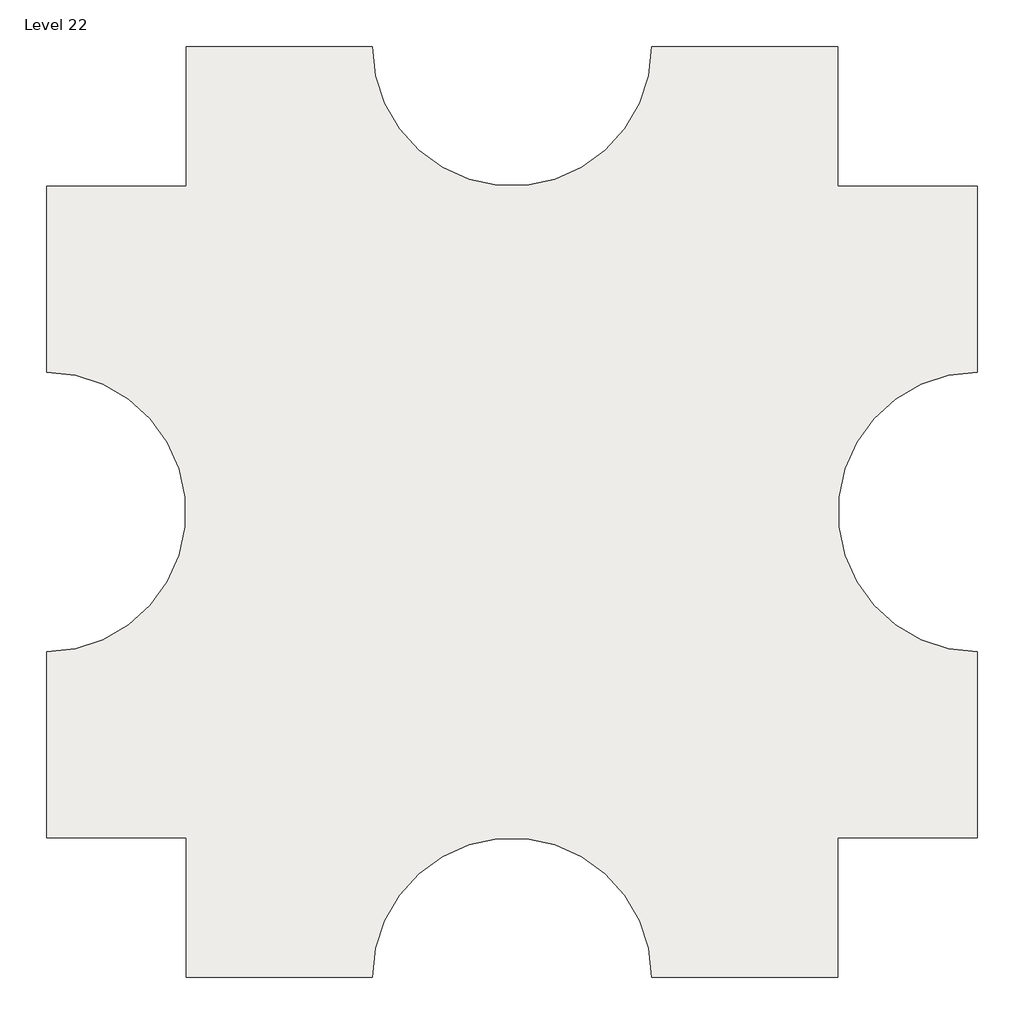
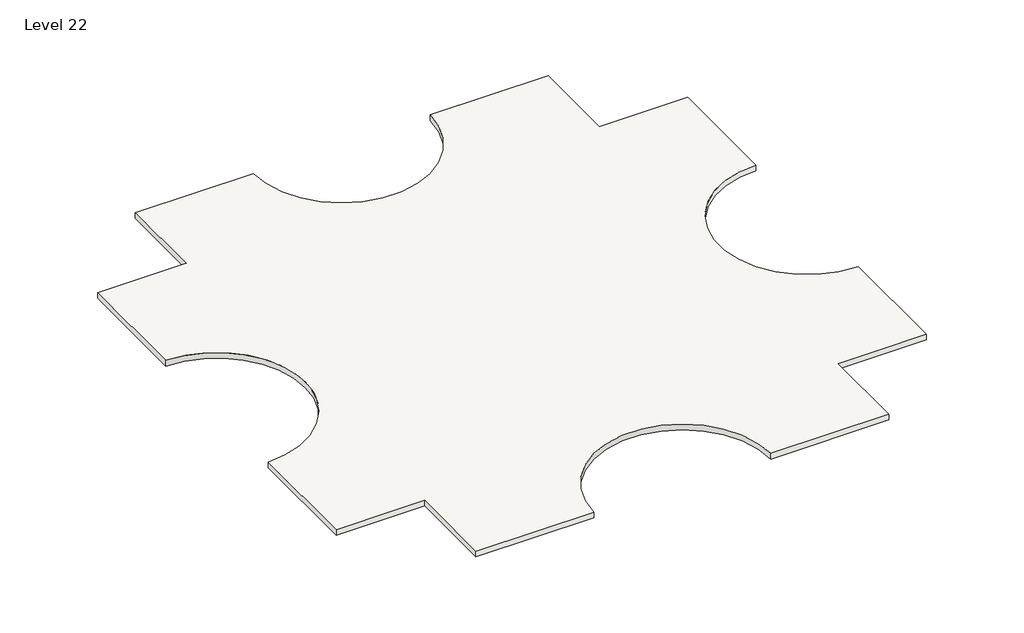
# One storey: 1 slab.
"""IFC4 building model written with IfcOpenShell, lengths in millimetres."""

import ifcopenshell
import ifcopenshell.guid

model = None  # the IFC model being written
_history = None  # IfcOwnerHistory: only IFC2X3 demands one
_inside = {}  # id of a spatial element -> (the spatial element, [elements in it])
_under = {}  # id of a project, library or spatial element -> (it, [spatial elements below it])
_declared = {}  # id of a project -> (the project, [libraries it declares])
_typed = {}  # id of a type object -> (the type object, [elements of that type])
_made_of = {}  # id of a material, layer set ... -> (it, [elements and type objects made of it])


def new_model(schema):
    """Start an empty IFC model of exactly this schema.

    Asked for "IFC4X3", IfcOpenShell would pick the latest addendum, in which some entities
    have other attributes; the version numbers below select the first issue.
    IFC2X3 requires an IfcOwnerHistory on every rooted entity: one is made here for all.
    """
    global model, _history
    if schema == "IFC4X3":
        model = ifcopenshell.file(schema_version=(4, 3, 0, 0))
    else:
        model = ifcopenshell.file(schema=schema)
    _inside.clear()
    _under.clear()
    _declared.clear()
    _typed.clear()
    _made_of.clear()
    _history = None
    if model.schema == "IFC2X3":
        org = make("IfcOrganization", Name="unknown")
        user = make(
            "IfcPersonAndOrganization",
            ThePerson=make("IfcPerson", FamilyName="unknown"),
            TheOrganization=org,
        )
        app = make(
            "IfcApplication",
            ApplicationDeveloper=org,
            Version="unknown",
            ApplicationFullName="unknown",
            ApplicationIdentifier="unknown",
        )
        _history = make(
            "IfcOwnerHistory",
            OwningUser=user,
            OwningApplication=app,
            ChangeAction="ADDED",
            CreationDate=0,
        )
    return model


def make(cls, **values):
    """One entity of the class cls with the attributes given. An attribute that is None is left unset."""
    return model.create_entity(
        cls, **{name: value for name, value in values.items() if value is not None}
    )


def rooted(cls, **values):
    """An entity with a GlobalId (a new one), such as an element, a storey or a relation."""
    return make(cls, GlobalId=ifcopenshell.guid.new(), OwnerHistory=_history, **values)


def si_unit(unit_type, name, prefix=None):
    """IfcSIUnit, for example si_unit("LENGTHUNIT", "METRE", prefix="MILLI")."""
    return make("IfcSIUnit", UnitType=unit_type, Prefix=prefix, Name=name)


def assignment(units):
    """IfcUnitAssignment: the units of a project."""
    return None if units is None else make("IfcUnitAssignment", Units=units)


def point(xyz):
    """IfcCartesianPoint."""
    return None if xyz is None else make("IfcCartesianPoint", Coordinates=xyz)


def direction(xyz):
    """IfcDirection."""
    return None if xyz is None else make("IfcDirection", DirectionRatios=xyz)


def frame(location, z_axis=None, x_axis=None):
    """IfcAxis2Placement3D, a coordinate frame: its origin and axes. An axis left out is left unset."""
    return make(
        "IfcAxis2Placement3D",
        Location=point(location),
        Axis=direction(z_axis),
        RefDirection=direction(x_axis),
    )


def frame_2d(location, x_axis=None):
    """IfcAxis2Placement2D, a coordinate frame in the plane: its origin and x axis."""
    return make(
        "IfcAxis2Placement2D", Location=point(location), RefDirection=direction(x_axis)
    )


def origin():
    """The frame at (0, 0, 0) with its axes left unset."""
    return frame((0.0, 0.0, 0.0))


def place(relative_to, where):
    """IfcLocalPlacement: puts the frame where relative to a parent placement (None: the world)."""
    return make(
        "IfcLocalPlacement", PlacementRelTo=relative_to, RelativePlacement=where
    )


def context(
    kind, dimensions, precision=None, world=None, true_north=None, identifier=None
):
    """IfcGeometricRepresentationContext, for example the 3D "Model" context."""
    return make(
        "IfcGeometricRepresentationContext",
        ContextIdentifier=identifier,
        ContextType=kind,
        CoordinateSpaceDimension=dimensions,
        Precision=precision,
        WorldCoordinateSystem=world,
        TrueNorth=true_north,
    )


def project(units=None, contexts=None):
    """IfcProject with its units and contexts."""
    return rooted(
        "IfcProject",
        Name="project",
        RepresentationContexts=contexts,
        UnitsInContext=assignment(units),
    )


def spatial(cls, under=None, at=None, **own):
    """A site, building, storey or space (cls), placed at a placement, below another one or the project."""
    s = rooted(cls, ObjectPlacement=at, **own)
    if under is not None:
        _under.setdefault(under.id(), (under, []))[1].append(s)
    return s


def polyline(points):
    """IfcPolyline through the points."""
    return make("IfcPolyline", Points=[point(p) for p in points])


def circle_curve(where, radius):
    """IfcCircle in the frame where."""
    return make("IfcCircle", Position=where, Radius=radius)


def trimmed(basis, trim1, trim2, sense, master):
    """IfcTrimmedCurve: the piece of a basis curve between two trims."""
    return make(
        "IfcTrimmedCurve",
        BasisCurve=basis,
        Trim1=trim1,
        Trim2=trim2,
        SenseAgreement=sense,
        MasterRepresentation=master,
    )


def segment(curve, same_sense, transition):
    """IfcCompositeCurveSegment."""
    return make(
        "IfcCompositeCurveSegment",
        Transition=transition,
        SameSense=same_sense,
        ParentCurve=curve,
    )


def composite_curve(segments, self_intersect=None):
    """IfcCompositeCurve: segments joined end to end."""
    return make("IfcCompositeCurve", Segments=segments, SelfIntersect=self_intersect)


def outline(outer, holes=None, kind="AREA"):
    """IfcArbitraryClosedProfileDef: a profile drawn as a closed curve; with holes, ...WithVoids."""
    if holes is None:
        return make("IfcArbitraryClosedProfileDef", ProfileType=kind, OuterCurve=outer)
    return make(
        "IfcArbitraryProfileDefWithVoids",
        ProfileType=kind,
        OuterCurve=outer,
        InnerCurves=holes,
    )


def extrude(swept, where, along, depth):
    """IfcExtrudedAreaSolid: the profile swept, set in the frame where, extruded along a direction by depth."""
    return make(
        "IfcExtrudedAreaSolid",
        SweptArea=swept,
        Position=where,
        ExtrudedDirection=direction(along),
        Depth=depth,
    )


def shape(context_of_items, identifier, shape_type, items):
    """IfcShapeRepresentation: the items that make up one representation, for example the "Body"."""
    return make(
        "IfcShapeRepresentation",
        ContextOfItems=context_of_items,
        RepresentationIdentifier=identifier,
        RepresentationType=shape_type,
        Items=items,
    )


def made_of(thing, what):
    """Note that an element or type object is made of a material, layer set ...; save() writes the relation."""
    if what is not None:
        _made_of.setdefault(what.id(), (what, []))[1].append(thing)
    return thing


def element(
    cls,
    number,
    at=None,
    inside=None,
    cuts=None,
    type_object=None,
    material=None,
    context=None,
    identifier="Body",
    shape_type=None,
    held_by="IfcProductDefinitionShape",
    body=None,
    shapes=None,
    **own,
):
    """One element of the class cls, such as IfcWall. Its Tag is "e" and its number.

    at: its placement. inside: the storey or other place that contains it. cuts: it is an
    opening in that element (IfcRelVoidsElement). A single representation is given by context,
    identifier, shape_type and body (its items); several are given by shapes. held_by: the class
    of the entity that holds the representations. save() writes the other relations.
    """
    e = rooted(cls, Tag="e%d" % number, ObjectPlacement=at, **own)
    if body is not None:
        shapes = [shape(context, identifier, shape_type, body)]
    if shapes is not None:
        e.Representation = make(held_by, Representations=shapes)
    if inside is not None:
        _inside.setdefault(inside.id(), (inside, []))[1].append(e)
    if cuts is not None:
        rooted(
            "IfcRelVoidsElement", RelatingBuildingElement=cuts, RelatedOpeningElement=e
        )
    if type_object is not None:
        _typed.setdefault(type_object.id(), (type_object, []))[1].append(e)
    return made_of(e, material)


def aggregate(whole, parts):
    """IfcRelAggregates: a whole, such as a stair, and the parts it consists of."""
    return rooted("IfcRelAggregates", RelatingObject=whole, RelatedObjects=parts)


def save(model, path):
    """Write the relations noted so far, then the file.

    IfcRelAggregates (storeys below a building ...), IfcRelContainedInSpatialStructure (elements
    in a storey), IfcRelDefinesByType, IfcRelAssociatesMaterial and IfcRelDeclares: one each for
    every whole, place, type object, material and project.
    """
    for whole, parts in _under.values():
        aggregate(whole, parts)
    for where, things in _inside.values():
        rooted(
            "IfcRelContainedInSpatialStructure",
            RelatedElements=things,
            RelatingStructure=where,
        )
    for kind, things in _typed.values():
        rooted("IfcRelDefinesByType", RelatedObjects=things, RelatingType=kind)
    for what, things in _made_of.values():
        rooted("IfcRelAssociatesMaterial", RelatedObjects=things, RelatingMaterial=what)
    for by, libraries in _declared.values():
        rooted("IfcRelDeclares", RelatingContext=by, RelatedDefinitions=libraries)
    model.write(path)


model = new_model("IFC4")

# Units and contexts
model_context = context("Model", 3, world=origin())
ifc_project = project(units=[si_unit("LENGTHUNIT", "METRE", prefix="MILLI")], contexts=[model_context])

# Site, building, storey
site = spatial("IfcSite", under=ifc_project)
building = spatial("IfcBuilding", under=site)
storey = spatial("IfcBuildingStorey", under=building, Name="Level 22", Elevation=64008.0)

# Slab
placement = place(None, origin())
element("IfcSlab", 1, ObjectType="Generic - 12\"", at=placement, inside=storey, context=model_context, shape_type="SweptSolid", body=[
    extrude(outline(composite_curve([segment(polyline([(-7150.3629456, 4479.6634547), (-7150.3629456, 9051.6634547), (-1054.3629456, 9051.6634547)]), True, "CONTINUOUS"), segment(trimmed(circle_curve(frame_2d((3517.6370544, 9051.6634547)), 4572.0), [point((-1054.3629456, 9051.6634547))], [point((8089.6370544, 9051.6634547))], True, "CARTESIAN"), True, "CONTINUOUS"), segment(polyline([(8089.6370544, 9051.6634547), (14185.6370544, 9051.6634547), (14185.6370544, 4479.6634547), (18757.6370544, 4479.6634547), (18757.6370544, -1616.3365453)]), True, "CONTINUOUS"), segment(trimmed(circle_curve(frame_2d((18757.6370544, -6188.3365453)), 4572.0), [point((18757.6370544, -1616.3365453))], [point((18757.6370544, -10760.3365453))], True, "CARTESIAN"), True, "CONTINUOUS"), segment(polyline([(18757.6370544, -10760.3365453), (18757.6370544, -16856.3365453), (14185.6370544, -16856.3365453), (14185.6370544, -21428.3365453), (8089.6370544, -21428.3365453)]), True, "CONTINUOUS"), segment(trimmed(circle_curve(frame_2d((3517.6370544, -21428.3365453)), 4572.0), [point((8089.6370544, -21428.3365453))], [point((-1054.3629456, -21428.3365453))], True, "CARTESIAN"), True, "CONTINUOUS"), segment(polyline([(-1054.3629456, -21428.3365453), (-7150.3629456, -21428.3365453), (-7150.3629456, -16856.3365453), (-11722.3629456, -16856.3365453), (-11722.3629456, -10760.3365453)]), True, "CONTINUOUS"), segment(trimmed(circle_curve(frame_2d((-11722.3629456, -6188.3365453)), 4572.0), [point((-11722.3629456, -10760.3365453))], [point((-11722.3629456, -1616.3365453))], True, "CARTESIAN"), True, "CONTINUOUS"), segment(polyline([(-11722.3629456, -1616.3365453), (-11722.3629456, 4479.6634547), (-7150.3629456, 4479.6634547)]), True, "CONTINUOUS")], self_intersect=False)), frame((0.0, 0.0, 63703.2), z_axis=(0.0, 0.0, 1.0), x_axis=(1.0, 0.0, 0.0)), (0.0, 0.0, 1.0), 304.8),
])

save(model, "model.ifc")
